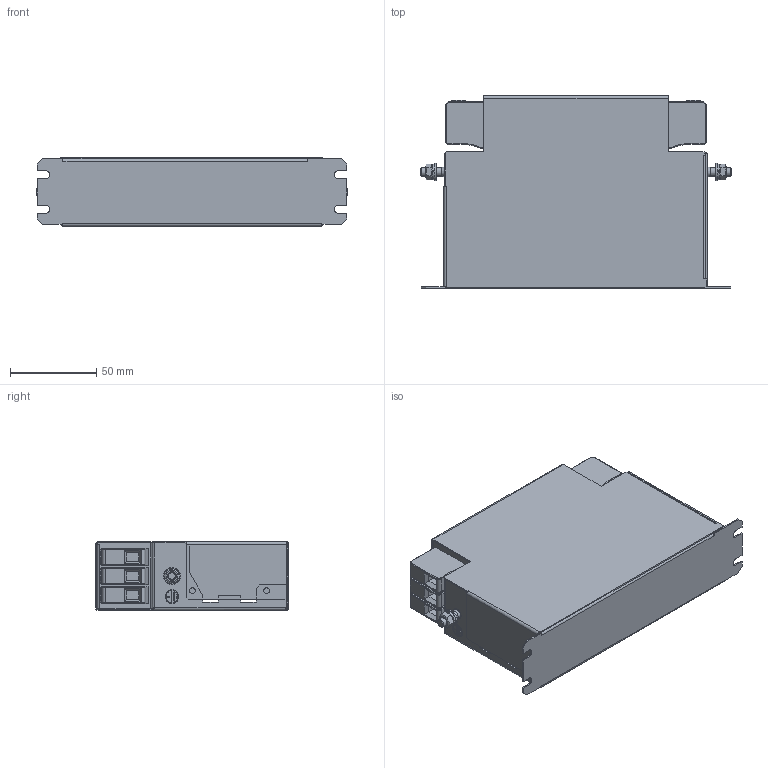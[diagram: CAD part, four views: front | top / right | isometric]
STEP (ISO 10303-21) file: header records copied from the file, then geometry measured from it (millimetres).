
FILE_DESCRIPTION(/* description */ ('raw material description'),/* implementation_level */ '2;1');
FILE_NAME(/* name */ 'C:\Users\Oliver.Volic\OneDrive - Schaffner EMV AG\Projekte\STEP\Wanda\FN3287-10-44.stp',/* time_stamp */ '2018-06-27T16:40:21+02:00',/* author */ ('Oliver.Volic'),/* organization */ ('Schaffner EMV AG'),/* preprocessor_version */ 'ST-DEVELOPER v16.5',/* originating_system */ 'Autodesk Inventor 2017',/* authorisation */ '');
FILE_SCHEMA (('AUTOMOTIVE_DESIGN { 1 0 10303 214 3 1 1 }'));
Length unit declared in the file: millimetre
Products named in the file (1): FN3287-10-44
Bounding box: 181 x 112.1 x 40 mm (x, y, z)
Volume: 87542.8 mm3; surface area: 125152.6 mm2
Topology: 2 solids, 3 shells, 1153 faces, 2906 edges, 1787 vertices
Faces by surface type: plane 724, cylinder 300, torus 60, sphere 36, bspline 19, cone 14
Full cylindrical faces by diameter (mm): 3.3 x13, 4.5 x6, 5 x4, 5.3 x2, 6.206 x2, 7 x2, 8 x2, 8.5 x6, 10 x2
Entity records: 35016 total; most frequent: CARTESIAN_POINT 6407, DIRECTION 5717, ORIENTED_EDGE 5550, EDGE_CURVE 2773, LINE 1977, VECTOR 1977, AXIS2_PLACEMENT_3D 1870, VERTEX_POINT 1767
